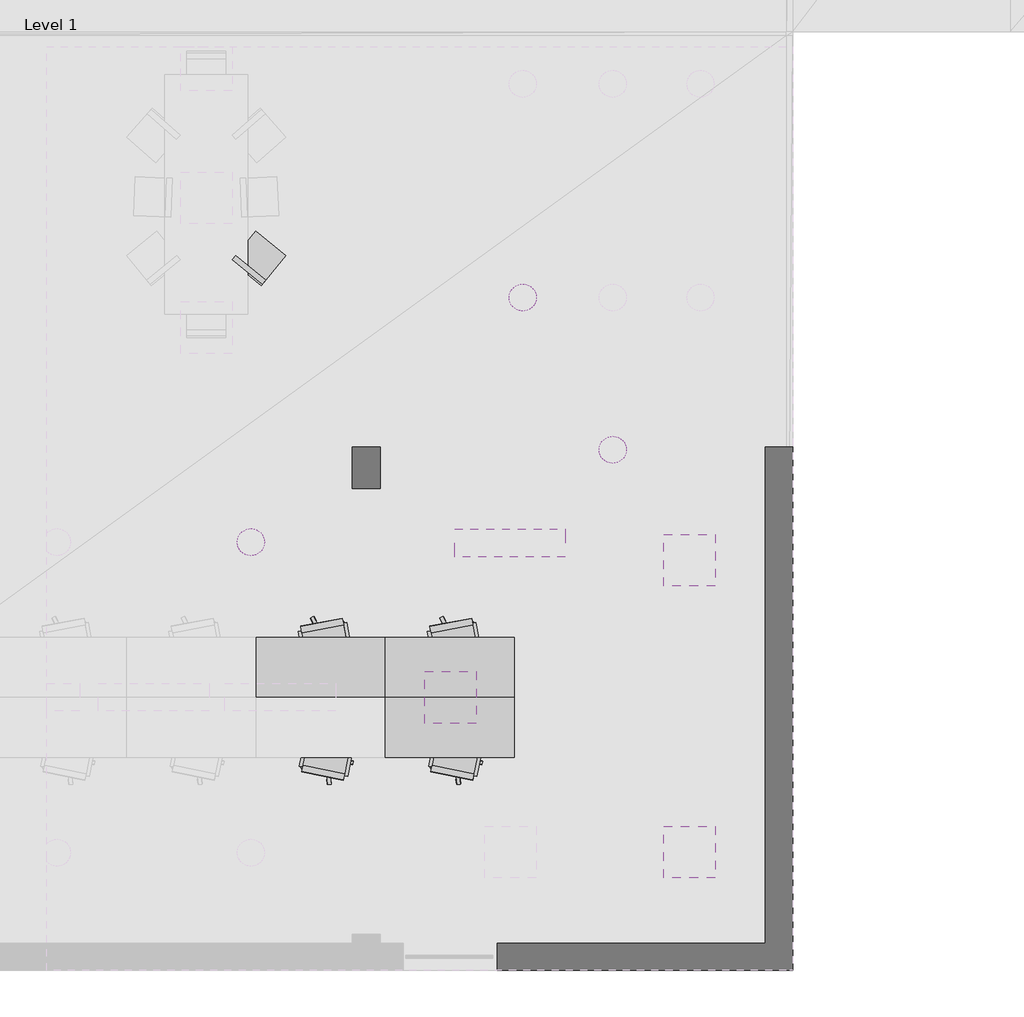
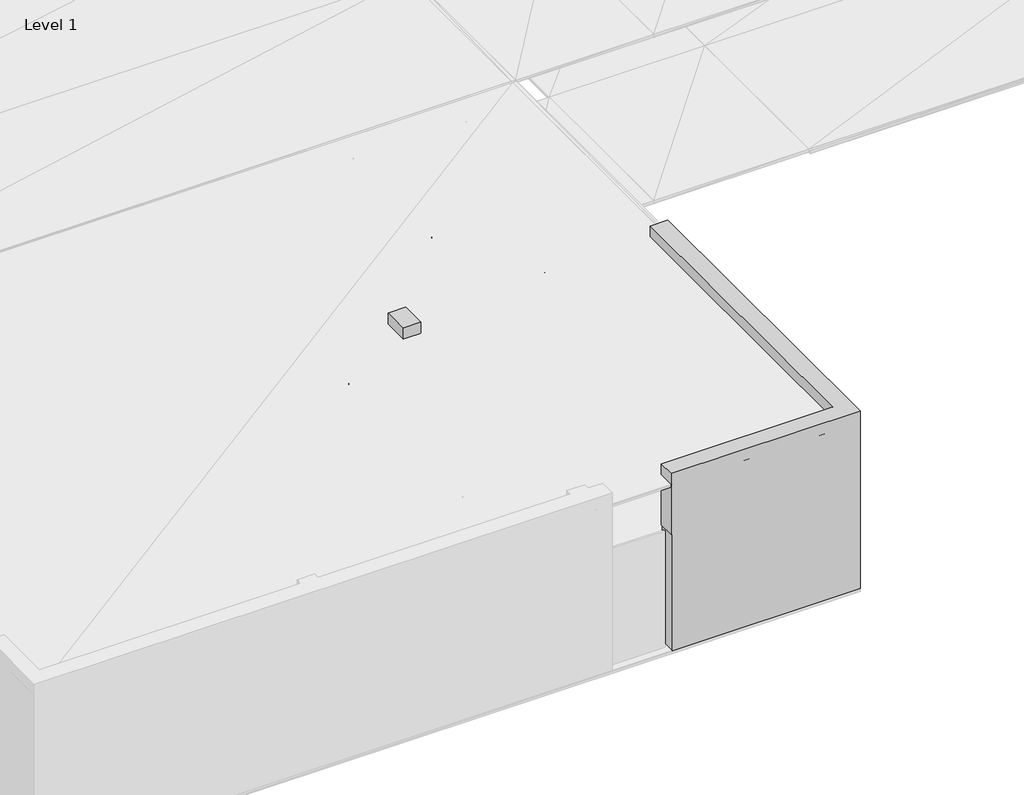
# One storey, part 4 of 14: 20 proxies.
"""IFC4 building model written with IfcOpenShell, lengths in millimetres."""

from ifc_helpers import new_model, si_unit, frame, origin, origin_with_axes, place, context, project, spatial, polyline, outline, extrude, faceted_brep, element, save

model = new_model("IFC4")

# Units and contexts
model_context = context("Model", 3, world=origin())
ifc_project = project(units=[si_unit("LENGTHUNIT", "METRE", prefix="MILLI")], contexts=[model_context])

# Site, building, storey
site = spatial("IfcSite", under=ifc_project)
building = spatial("IfcBuilding", under=site)
storey = spatial("IfcBuildingStorey", under=building, Name="Level 1", Elevation=0.0)

# Proxies
placement = place(None, origin())
element("IfcBuildingElementProxy", 1, Name="Generic Models", at=placement, inside=storey, context=model_context, shape_type="SweptSolid", body=[
    extrude(outline(polyline([(9656.826019, 2957.967758), (11056.825638, 2957.967758), (11056.825638, 2307.967901), (9656.826019, 2307.967901), (9656.826019, 2957.967758)])), frame((0.0, 0.0, 709.999979), z_axis=(0.0, 0.0, 1.0), x_axis=(1.0, 0.0, 0.0)), (0.0, 0.0, 1.0), 40.000021),
])
element("IfcBuildingElementProxy", 2, Name="Generic Models", at=placement, inside=storey, context=model_context, shape_type="SweptSolid", body=[
    extrude(outline(polyline([(8256.826401, 3607.967854), (9656.826019, 3607.967854), (9656.826019, 2957.967758), (8256.826401, 2957.967758), (8256.826401, 3607.967854)])), frame((0.0, 0.0, 709.999979), z_axis=(0.0, 0.0, 1.0), x_axis=(1.0, 0.0, 0.0)), (0.0, 0.0, 1.0), 40.000021),
])
element("IfcBuildingElementProxy", 3, Name="Generic Models", at=placement, inside=storey, context=model_context, shape_type="SweptSolid", body=[
    extrude(outline(polyline([(9656.826019, 3607.967854), (11056.825638, 3607.967854), (11056.825638, 2957.967758), (9656.826019, 2957.967758), (9656.826019, 3607.967854)])), frame((0.0, 0.0, 709.999979), z_axis=(0.0, 0.0, 1.0), x_axis=(1.0, 0.0, 0.0)), (0.0, 0.0, 1.0), 40.000021),
])
element("IfcBuildingElementProxy", 4, Name="Generic Models", at=placement, inside=storey, context=model_context, shape_type="SweptSolid", body=[
    extrude(outline(polyline([(9306.017876, 5670.000553), (9606.017113, 5670.000553), (9606.017113, 5220.000267), (9306.017876, 5220.000267), (9306.017876, 5670.000553)])), origin_with_axes(), (0.0, 0.0, 1.0), 3200.000048),
])
element("IfcBuildingElementProxy", 5, Name="Generic Models", at=placement, inside=storey, context=model_context, shape_type="Brep", body=[
    faceted_brep([(10876.01757, 0.00035, 2099.999905), (10876.01757, 290.000349, 2099.999905), (10876.01757, 290.000349, 0.0), (10876.01757, 0.00035, 0.0), (10856.017113, 290.000349, 2099.999905), (10856.017113, 0.00035, 2099.999905), (10856.017113, 290.000349, 3200.000048), (13776.017189, 290.000349, 3200.000048), (13776.017189, 290.000349, 0.0), (13776.017189, 5670.000553, 0.0), (13776.017189, 5670.000553, 3200.000048), (14076.01738, 5670.000553, 0.0), (14076.01738, 5670.000553, 3200.000048), (14076.01738, 0.00035, 0.0), (14076.01738, 0.00035, 3200.000048), (10856.017113, 0.00035, 3200.000048)], [[[0, 1, 2, 3]], [[4, 1, 0, 5]], [[4, 6, 7, 8, 2, 1]], [[9, 8, 7, 10]], [[11, 9, 10, 12]], [[13, 11, 12, 14]], [[3, 13, 14, 15, 5, 0]], [[5, 15, 6, 4]], [[7, 6, 15, 14, 12, 10]], [[8, 9, 11, 13, 3, 2]]]),
])
element("IfcBuildingElementProxy", 6, Name="Generic Models", at=placement, inside=storey, context=model_context, shape_type="SweptSolid", body=[
    extrude(outline(polyline([(10412.398338, 4480.108738), (10412.398338, 4780.108929), (11612.399101, 4780.108929), (11612.399101, 4480.108738), (10412.398338, 4480.108738)])), frame((0.0, 0.0, 2910.000086), z_axis=(0.0, 0.0, 1.0), x_axis=(1.0, 0.0, 0.0)), (0.0, 0.0, 1.0), 39.999962),
])
element("IfcBuildingElementProxy", 7, Name="Generic Models", at=placement, inside=storey, context=model_context, shape_type="SweptSolid", body=[
    extrude(outline(polyline([(10087.87632, 2677.057981), (10087.87632, 3237.057924), (10647.875786, 3237.057924), (10647.875786, 2677.057981), (10087.87632, 2677.057981)])), frame((0.0, 0.0, 2910.000086), z_axis=(0.0, 0.0, 1.0), x_axis=(1.0, 0.0, 0.0)), (0.0, 0.0, 1.0), 39.999962),
])
element("IfcBuildingElementProxy", 8, Name="Generic Models", at=placement, inside=storey, context=model_context, shape_type="SweptSolid", body=[
    extrude(outline(polyline([(12676.481247, 999.878049), (12676.481247, 1559.877992), (13236.480713, 1559.877992), (13236.480713, 999.878049), (12676.481247, 999.878049)])), frame((0.0, 0.0, 2910.000086), z_axis=(0.0, 0.0, 1.0), x_axis=(1.0, 0.0, 0.0)), (0.0, 0.0, 1.0), 39.999962),
])
element("IfcBuildingElementProxy", 9, Name="Generic Models", at=placement, inside=storey, context=model_context, shape_type="SweptSolid", body=[
    extrude(outline(polyline([(12676.481247, 4162.861824), (12676.481247, 4722.862244), (13236.480713, 4722.862244), (13236.480713, 4162.861824), (12676.481247, 4162.861824)])), frame((0.0, 0.0, 2910.000086), z_axis=(0.0, 0.0, 1.0), x_axis=(1.0, 0.0, 0.0)), (0.0, 0.0, 1.0), 39.999962),
])
element("IfcBuildingElementProxy", 10, Name="Generic Models", at=placement, inside=storey, context=model_context, shape_type="SweptSolid", body=[
    extrude(outline(polyline([(11287.160873, 7234.164715), (11273.543358, 7208.688259), (11255.217552, 7186.357498), (11232.887268, 7168.031693), (11207.410812, 7154.414177), (11179.766655, 7146.028519), (11151.018143, 7143.19706), (11122.26963, 7146.028519), (11094.625473, 7154.414177), (11069.149017, 7168.031693), (11046.818733, 7186.357498), (11028.492928, 7208.688259), (11014.875412, 7234.164715), (11006.489754, 7261.808395), (11003.658295, 7290.556908), (11006.489754, 7319.30542), (11014.875412, 7346.9491), (11028.492928, 7372.425556), (11046.818733, 7394.756317), (11069.149017, 7413.082123), (11094.625473, 7426.699638), (11122.26963, 7435.085297), (11151.018143, 7437.916756), (11179.766655, 7435.085297), (11207.410812, 7426.699638), (11232.887268, 7413.082123), (11255.217552, 7394.756317), (11273.543358, 7372.425556), (11287.160873, 7346.9491), (11295.546532, 7319.30542), (11298.377991, 7290.556908), (11295.546532, 7261.808395), (11287.160873, 7234.164715)])), frame((0.0, 0.0, 2910.000086), z_axis=(0.0, 0.0, 1.0), x_axis=(1.0, 0.0, 0.0)), (0.0, 0.0, 1.0), 39.999962),
])
element("IfcBuildingElementProxy", 11, Name="Generic Models", at=placement, inside=storey, context=model_context, shape_type="SweptSolid", body=[
    extrude(outline(polyline([(12262.160301, 5584.164619), (12248.542786, 5558.688164), (12230.21698, 5536.357403), (12207.886696, 5518.031597), (12182.41024, 5504.414082), (12154.766083, 5496.028423), (12126.01757, 5493.196964), (12097.269058, 5496.028423), (12069.624901, 5504.414082), (12044.148445, 5518.031597), (12021.818161, 5536.357403), (12003.492355, 5558.688164), (11989.87484, 5584.164619), (11981.489182, 5611.8083), (11978.657722, 5640.556812), (11981.489182, 5669.305325), (11989.87484, 5696.949005), (12003.492355, 5722.425461), (12021.818161, 5744.756222), (12044.148445, 5763.082027), (12069.624901, 5776.699543), (12097.269058, 5785.085201), (12126.01757, 5787.91666), (12154.766083, 5785.085201), (12182.41024, 5776.699543), (12207.886696, 5763.082027), (12230.21698, 5744.756222), (12248.542786, 5722.425461), (12262.160301, 5696.949005), (12270.545959, 5669.305325), (12273.377419, 5640.556812), (12270.545959, 5611.8083), (12262.160301, 5584.164619)])), frame((0.0, 0.0, 2910.000086), z_axis=(0.0, 0.0, 1.0), x_axis=(1.0, 0.0, 0.0)), (0.0, 0.0, 1.0), 39.999962),
])
element("IfcBuildingElementProxy", 12, Name="Generic Models", at=placement, inside=storey, context=model_context, shape_type="SweptSolid", body=[
    extrude(outline(polyline([(8342.161179, 4582.59201), (8328.543663, 4557.115555), (8310.217857, 4534.784794), (8287.887573, 4516.458988), (8262.411118, 4502.841473), (8234.76696, 4494.455814), (8206.018448, 4491.624355), (8177.269936, 4494.455814), (8149.625778, 4502.841473), (8124.149323, 4516.458988), (8101.819038, 4534.784794), (8083.493233, 4557.115555), (8069.875717, 4582.59201), (8061.490059, 4610.235691), (8058.6586, 4638.984203), (8061.490059, 4667.732716), (8069.875717, 4695.376396), (8083.493233, 4720.852852), (8101.819038, 4743.183613), (8124.149323, 4761.509418), (8149.625778, 4775.126934), (8177.269936, 4783.512592), (8206.018448, 4786.344051), (8234.76696, 4783.512592), (8262.411118, 4775.126934), (8287.887573, 4761.509418), (8310.217857, 4743.183613), (8328.543663, 4720.852852), (8342.161179, 4695.376396), (8350.546837, 4667.732716), (8353.378296, 4638.984203), (8350.546837, 4610.235691), (8342.161179, 4582.59201)])), frame((0.0, 0.0, 2910.000086), z_axis=(0.0, 0.0, 1.0), x_axis=(1.0, 0.0, 0.0)), (0.0, 0.0, 1.0), 39.999962),
])
element("IfcBuildingElementProxy", 13, Name="Generic Models", at=placement, inside=storey, context=model_context, shape_type="SweptSolid", body=[
    extrude(outline(polyline([(8501.187325, 7729.259968), (8518.912315, 7750.934601), (8540.587425, 7733.208656), (8522.861481, 7711.534023), (8501.187325, 7729.259968)])), frame((0.0, 0.0, 50.000001), z_axis=(0.0, 0.0, 1.0), x_axis=(1.0, 0.0, 0.0)), (0.0, 0.0, 1.0), 389.999997),
    extrude(outline(polyline([(8298.605919, 7481.548786), (8316.331863, 7503.223419), (8338.00602, 7485.497475), (8320.280075, 7463.822842), (8298.605919, 7481.548786)])), frame((0.0, 0.0, 50.000001), z_axis=(0.0, 0.0, 1.0), x_axis=(1.0, 0.0, 0.0)), (0.0, 0.0, 1.0), 389.999997),
    extrude(outline(polyline([(8237.994194, 7944.502354), (8255.720139, 7966.176987), (8277.394295, 7948.451519), (8259.66835, 7926.776409), (8237.994194, 7944.502354)])), frame((0.0, 0.0, 50.000001), z_axis=(0.0, 0.0, 1.0), x_axis=(1.0, 0.0, 0.0)), (0.0, 0.0, 1.0), 389.999997),
    extrude(outline(polyline([(8035.412788, 7696.791172), (8053.138733, 7718.466282), (8074.812889, 7700.740337), (8057.086945, 7679.065704), (8035.412788, 7696.791172)])), frame((0.0, 0.0, 50.000001), z_axis=(0.0, 0.0, 1.0), x_axis=(1.0, 0.0, 0.0)), (0.0, 0.0, 1.0), 389.999997),
    extrude(outline(polyline([(8005.156517, 7700.865746), (8043.141365, 7747.311592), (8368.261337, 7481.423378), (8330.277443, 7434.977531), (8005.156517, 7700.865746)])), frame((0.0, 0.0, 460.000008), z_axis=(0.0, 0.0, 1.0), x_axis=(1.0, 0.0, 0.0)), (0.0, 0.0, 1.0), 400.000006),
    extrude(outline(polyline([(7992.495537, 7685.383797), (8258.383751, 8010.504723), (8583.504677, 7744.616508), (8317.616463, 7419.495583), (7992.495537, 7685.383797)])), frame((0.0, 0.0, 417.499989), z_axis=(0.0, 0.0, 1.0), x_axis=(1.0, 0.0, 0.0)), (0.0, 0.0, 1.0), 55.000007),
])
element("IfcBuildingElementProxy", 14, Name="Generic Models", at=placement, inside=storey, context=model_context, shape_type="SweptSolid", body=[
    extrude(outline(polyline([(11004.325867, 2382.967949), (10959.32579, 2382.967949), (10959.32579, 2882.96771), (11004.325867, 2882.96771), (11004.325867, 2382.967949)])), frame((0.0, 0.0, 639.999986), z_axis=(0.0, 0.0, 1.0), x_axis=(1.0, 0.0, 0.0)), (0.0, 0.0, 1.0), 69.999993),
    extrude(outline(polyline([(9754.325867, 2382.967949), (9709.32579, 2382.967949), (9709.32579, 2882.96771), (9754.325867, 2882.96771), (9754.325867, 2382.967949)])), frame((0.0, 0.0, 639.999986), z_axis=(0.0, 0.0, 1.0), x_axis=(1.0, 0.0, 0.0)), (0.0, 0.0, 1.0), 69.999993),
    extrude(outline(polyline([(9731.825829, 2860.467672), (9731.825829, 2905.467749), (10981.825829, 2905.467749), (10981.825829, 2860.467672), (9731.825829, 2860.467672)])), frame((0.0, 0.0, 639.999986), z_axis=(0.0, 0.0, 1.0), x_axis=(1.0, 0.0, 0.0)), (0.0, 0.0, 1.0), 69.999993),
    extrude(outline(polyline([(9731.825829, 2360.467911), (9731.825829, 2405.467987), (10981.825829, 2405.467987), (10981.825829, 2360.467911), (9731.825829, 2360.467911)])), frame((0.0, 0.0, 639.999986), z_axis=(0.0, 0.0, 1.0), x_axis=(1.0, 0.0, 0.0)), (0.0, 0.0, 1.0), 69.999993),
    extrude(outline(polyline([(10957.450867, 2858.592749), (10957.450867, 2907.342672), (11006.20079, 2907.342672), (11006.20079, 2858.592749), (10957.450867, 2858.592749)])), frame((0.0, 0.0, 50.000001), z_axis=(0.0, 0.0, 1.0), x_axis=(1.0, 0.0, 0.0)), (0.0, 0.0, 1.0), 659.999978),
    extrude(outline(polyline([(10957.450867, 2358.592987), (10957.450867, 2407.342911), (11006.20079, 2407.342911), (11006.20079, 2358.592987), (10957.450867, 2358.592987)])), frame((0.0, 0.0, 50.000001), z_axis=(0.0, 0.0, 1.0), x_axis=(1.0, 0.0, 0.0)), (0.0, 0.0, 1.0), 659.999978),
    extrude(outline(polyline([(9707.450867, 2858.592749), (9707.450867, 2907.342672), (9756.20079, 2907.342672), (9756.20079, 2858.592749), (9707.450867, 2858.592749)])), frame((0.0, 0.0, 50.000001), z_axis=(0.0, 0.0, 1.0), x_axis=(1.0, 0.0, 0.0)), (0.0, 0.0, 1.0), 659.999978),
    extrude(outline(polyline([(9707.450867, 2358.592987), (9707.450867, 2407.342911), (9756.20079, 2407.342911), (9756.20079, 2358.592987), (9707.450867, 2358.592987)])), frame((0.0, 0.0, 50.000001), z_axis=(0.0, 0.0, 1.0), x_axis=(1.0, 0.0, 0.0)), (0.0, 0.0, 1.0), 659.999978),
])
element("IfcBuildingElementProxy", 15, Name="Generic Models", at=placement, inside=storey, context=model_context, shape_type="SweptSolid", body=[
    extrude(outline(polyline([(9604.326248, 3032.967806), (9559.326172, 3032.967806), (9559.326172, 3532.967806), (9604.326248, 3532.967806), (9604.326248, 3032.967806)])), frame((0.0, 0.0, 639.999986), z_axis=(0.0, 0.0, 1.0), x_axis=(1.0, 0.0, 0.0)), (0.0, 0.0, 1.0), 69.999993),
    extrude(outline(polyline([(8354.326248, 3032.967806), (8309.326172, 3032.967806), (8309.326172, 3532.967806), (8354.326248, 3532.967806), (8354.326248, 3032.967806)])), frame((0.0, 0.0, 639.999986), z_axis=(0.0, 0.0, 1.0), x_axis=(1.0, 0.0, 0.0)), (0.0, 0.0, 1.0), 69.999993),
    extrude(outline(polyline([(8331.82621, 3510.467768), (8331.82621, 3555.467844), (9581.82621, 3555.467844), (9581.82621, 3510.467768), (8331.82621, 3510.467768)])), frame((0.0, 0.0, 639.999986), z_axis=(0.0, 0.0, 1.0), x_axis=(1.0, 0.0, 0.0)), (0.0, 0.0, 1.0), 69.999993),
    extrude(outline(polyline([(8331.82621, 3010.467768), (8331.82621, 3055.467844), (9581.82621, 3055.467844), (9581.82621, 3010.467768), (8331.82621, 3010.467768)])), frame((0.0, 0.0, 639.999986), z_axis=(0.0, 0.0, 1.0), x_axis=(1.0, 0.0, 0.0)), (0.0, 0.0, 1.0), 69.999993),
    extrude(outline(polyline([(9557.451248, 3508.592844), (9557.451248, 3557.342768), (9606.201172, 3557.342768), (9606.201172, 3508.592844), (9557.451248, 3508.592844)])), frame((0.0, 0.0, 50.000001), z_axis=(0.0, 0.0, 1.0), x_axis=(1.0, 0.0, 0.0)), (0.0, 0.0, 1.0), 659.999978),
    extrude(outline(polyline([(9557.451248, 3008.592844), (9557.451248, 3057.342768), (9606.201172, 3057.342768), (9606.201172, 3008.592844), (9557.451248, 3008.592844)])), frame((0.0, 0.0, 50.000001), z_axis=(0.0, 0.0, 1.0), x_axis=(1.0, 0.0, 0.0)), (0.0, 0.0, 1.0), 659.999978),
    extrude(outline(polyline([(8307.451248, 3508.592844), (8307.451248, 3557.342768), (8356.201172, 3557.342768), (8356.201172, 3508.592844), (8307.451248, 3508.592844)])), frame((0.0, 0.0, 50.000001), z_axis=(0.0, 0.0, 1.0), x_axis=(1.0, 0.0, 0.0)), (0.0, 0.0, 1.0), 659.999978),
    extrude(outline(polyline([(8307.451248, 3008.592844), (8307.451248, 3057.342768), (8356.201172, 3057.342768), (8356.201172, 3008.592844), (8307.451248, 3008.592844)])), frame((0.0, 0.0, 50.000001), z_axis=(0.0, 0.0, 1.0), x_axis=(1.0, 0.0, 0.0)), (0.0, 0.0, 1.0), 659.999978),
])
element("IfcBuildingElementProxy", 16, Name="Generic Models", at=placement, inside=storey, context=model_context, shape_type="SweptSolid", body=[
    extrude(outline(polyline([(11004.325867, 3032.967806), (10959.32579, 3032.967806), (10959.32579, 3532.967806), (11004.325867, 3532.967806), (11004.325867, 3032.967806)])), frame((0.0, 0.0, 639.999986), z_axis=(0.0, 0.0, 1.0), x_axis=(1.0, 0.0, 0.0)), (0.0, 0.0, 1.0), 69.999993),
    extrude(outline(polyline([(9754.325867, 3032.967806), (9709.32579, 3032.967806), (9709.32579, 3532.967806), (9754.325867, 3532.967806), (9754.325867, 3032.967806)])), frame((0.0, 0.0, 639.999986), z_axis=(0.0, 0.0, 1.0), x_axis=(1.0, 0.0, 0.0)), (0.0, 0.0, 1.0), 69.999993),
    extrude(outline(polyline([(9731.825829, 3510.467768), (9731.825829, 3555.467844), (10981.825829, 3555.467844), (10981.825829, 3510.467768), (9731.825829, 3510.467768)])), frame((0.0, 0.0, 639.999986), z_axis=(0.0, 0.0, 1.0), x_axis=(1.0, 0.0, 0.0)), (0.0, 0.0, 1.0), 69.999993),
    extrude(outline(polyline([(9731.825829, 3010.467768), (9731.825829, 3055.467844), (10981.825829, 3055.467844), (10981.825829, 3010.467768), (9731.825829, 3010.467768)])), frame((0.0, 0.0, 639.999986), z_axis=(0.0, 0.0, 1.0), x_axis=(1.0, 0.0, 0.0)), (0.0, 0.0, 1.0), 69.999993),
    extrude(outline(polyline([(10957.450867, 3508.592844), (10957.450867, 3557.342768), (11006.20079, 3557.342768), (11006.20079, 3508.592844), (10957.450867, 3508.592844)])), frame((0.0, 0.0, 50.000001), z_axis=(0.0, 0.0, 1.0), x_axis=(1.0, 0.0, 0.0)), (0.0, 0.0, 1.0), 659.999978),
    extrude(outline(polyline([(10957.450867, 3008.592844), (10957.450867, 3057.342768), (11006.20079, 3057.342768), (11006.20079, 3008.592844), (10957.450867, 3008.592844)])), frame((0.0, 0.0, 50.000001), z_axis=(0.0, 0.0, 1.0), x_axis=(1.0, 0.0, 0.0)), (0.0, 0.0, 1.0), 659.999978),
    extrude(outline(polyline([(9707.450867, 3508.592844), (9707.450867, 3557.342768), (9756.20079, 3557.342768), (9756.20079, 3508.592844), (9707.450867, 3508.592844)])), frame((0.0, 0.0, 50.000001), z_axis=(0.0, 0.0, 1.0), x_axis=(1.0, 0.0, 0.0)), (0.0, 0.0, 1.0), 659.999978),
    extrude(outline(polyline([(9707.450867, 3008.592844), (9707.450867, 3057.342768), (9756.20079, 3057.342768), (9756.20079, 3008.592844), (9707.450867, 3008.592844)])), frame((0.0, 0.0, 50.000001), z_axis=(0.0, 0.0, 1.0), x_axis=(1.0, 0.0, 0.0)), (0.0, 0.0, 1.0), 659.999978),
])
element("IfcBuildingElementProxy", 17, Name="Generic Models", at=placement, inside=storey, context=model_context, shape_type="SweptSolid", body=[
    extrude(outline(polyline([(8778.252602, 3524.032593), (8783.71048, 3494.5333), (8754.210472, 3489.075899), (8748.753548, 3518.575191), (8778.252602, 3524.032593)])), frame((0.0, 0.0, 439.999998), z_axis=(0.0, 0.0, 1.0), x_axis=(1.0, 0.0, 0.0)), (0.0, 0.0, 1.0), 199.999988),
    extrude(outline(polyline([(8752.514839, 3676.901102), (8814.364433, 3342.57412), (8779.949188, 3336.207151), (8718.09864, 3670.534134), (8752.514839, 3676.901102)])), frame((0.0, 0.0, 612.500012), z_axis=(0.0, 0.0, 1.0), x_axis=(1.0, 0.0, 0.0)), (0.0, 0.0, 1.0), 34.999967),
    extrude(outline(polyline([(8813.246727, 3705.933571), (8817.7948, 3681.350708), (8793.211937, 3676.802874), (8788.663864, 3701.385736), (8813.246727, 3705.933571)])), frame((0.0, 0.0, 460.000008), z_axis=(0.0, 0.0, 1.0), x_axis=(1.0, 0.0, 0.0)), (0.0, 0.0, 1.0), 400.000006),
    extrude(outline(polyline([(9269.909859, 3614.989042), (9275.367737, 3585.489511), (9245.867729, 3580.03211), (9240.410805, 3609.531641), (9269.909859, 3614.989042)])), frame((0.0, 0.0, 439.999998), z_axis=(0.0, 0.0, 1.0), x_axis=(1.0, 0.0, 0.0)), (0.0, 0.0, 1.0), 199.999988),
    extrude(outline(polyline([(9244.172096, 3767.857552), (9306.022644, 3433.530569), (9271.606445, 3427.163601), (9209.755898, 3761.490583), (9244.172096, 3767.857552)])), frame((0.0, 0.0, 612.500012), z_axis=(0.0, 0.0, 1.0), x_axis=(1.0, 0.0, 0.0)), (0.0, 0.0, 1.0), 34.999967),
    extrude(outline(polyline([(9167.240143, 3771.422148), (9171.787262, 3746.839285), (9147.204399, 3742.291451), (9142.65728, 3766.874313), (9167.240143, 3771.422148)])), frame((0.0, 0.0, 460.000008), z_axis=(0.0, 0.0, 1.0), x_axis=(1.0, 0.0, 0.0)), (0.0, 0.0, 1.0), 400.000006),
    extrude(outline(polyline([(9198.202133, 3810.201645), (9210.935593, 3741.369486), (8758.610725, 3657.689571), (8745.877266, 3726.52173), (9198.202133, 3810.201645)])), frame((0.0, 0.0, 460.000008), z_axis=(0.0, 0.0, 1.0), x_axis=(1.0, 0.0, 0.0)), (0.0, 0.0, 1.0), 479.99999),
    extrude(outline(polyline([(9197.292328, 3815.118074), (9273.695946, 3402.125835), (8821.371078, 3318.446159), (8744.967461, 3731.438398), (9197.292328, 3815.118074)])), frame((0.0, 0.0, 400.000006), z_axis=(0.0, 0.0, 1.0), x_axis=(1.0, 0.0, 0.0)), (0.0, 0.0, 1.0), 69.999993),
    extrude(outline(polyline([(9026.831627, 3536.471128), (9009.331703, 3531.78215), (8991.831779, 3536.471128), (8979.021072, 3549.282074), (8974.331856, 3566.781998), (8979.021072, 3584.28216), (8991.831779, 3597.093105), (9009.331703, 3601.782084), (9026.831627, 3597.093105), (9039.642334, 3584.28216), (9044.331551, 3566.781998), (9039.642334, 3549.282074), (9026.831627, 3536.471128)])), frame((0.0, 0.0, 115.000002), z_axis=(0.0, 0.0, 1.0), x_axis=(1.0, 0.0, 0.0)), (0.0, 0.0, 1.0), 280.000009),
    extrude(outline(polyline([(8915.851593, 3786.267996), (8876.297951, 3764.808893), (8850.07, 3813.152313), (8889.623642, 3834.611416), (8915.851593, 3786.267996)])), frame((0.0, 0.0, 35.0), z_axis=(0.0, 0.0, 1.0), x_axis=(1.0, 0.0, 0.0)), (0.0, 0.0, 1.0), 59.999999),
    extrude(outline(polyline([(9027.097702, 3570.732594), (8996.334076, 3554.042101), (8853.273392, 3817.734241), (8884.037018, 3834.424496), (9027.097702, 3570.732594)])), frame((0.0, 0.0, 82.500003), z_axis=(0.0, 0.0, 1.0), x_axis=(1.0, 0.0, 0.0)), (0.0, 0.0, 1.0), 34.999997),
    extrude(outline(polyline([(9189.188004, 3723.511457), (9156.557083, 3754.498243), (9194.429398, 3794.38138), (9227.061272, 3763.394594), (9189.188004, 3723.511457)])), frame((0.0, 0.0, 35.0), z_axis=(0.0, 0.0, 1.0), x_axis=(1.0, 0.0, 0.0)), (0.0, 0.0, 1.0), 59.999999),
    extrude(outline(polyline([(9018.578529, 3551.105976), (8993.198395, 3575.206757), (9199.776649, 3792.751312), (9225.156784, 3768.650532), (9018.578529, 3551.105976)])), frame((0.0, 0.0, 82.500003), z_axis=(0.0, 0.0, 1.0), x_axis=(1.0, 0.0, 0.0)), (0.0, 0.0, 1.0), 34.999997),
    extrude(outline(polyline([(9213.969231, 3444.160461), (9233.355522, 3484.770298), (9282.989502, 3461.076021), (9263.60321, 3420.465946), (9213.969231, 3444.160461)])), frame((0.0, 0.0, 35.0), z_axis=(0.0, 0.0, 1.0), x_axis=(1.0, 0.0, 0.0)), (0.0, 0.0, 1.0), 59.999999),
    extrude(outline(polyline([(8997.280121, 3553.143501), (9012.358665, 3584.728956), (9283.091545, 3455.486774), (9268.013954, 3423.901081), (8997.280121, 3553.143501)])), frame((0.0, 0.0, 82.500003), z_axis=(0.0, 0.0, 1.0), x_axis=(1.0, 0.0, 0.0)), (0.0, 0.0, 1.0), 34.999997),
    extrude(outline(polyline([(8955.947876, 3334.268332), (9000.56076, 3328.380108), (8993.364334, 3273.852825), (8948.75145, 3279.741287), (8955.947876, 3334.268332)])), frame((0.0, 0.0, 35.0), z_axis=(0.0, 0.0, 1.0), x_axis=(1.0, 0.0, 0.0)), (0.0, 0.0, 1.0), 59.999999),
    extrude(outline(polyline([(8992.636681, 3574.028969), (9027.335167, 3569.449186), (8988.080025, 3272.028685), (8953.380585, 3276.608467), (8992.636681, 3574.028969)])), frame((0.0, 0.0, 82.500003), z_axis=(0.0, 0.0, 1.0), x_axis=(1.0, 0.0, 0.0)), (0.0, 0.0, 1.0), 34.999997),
    extrude(outline(polyline([(8771.701813, 3545.702457), (8779.887199, 3501.453161), (8725.805283, 3491.448164), (8717.618942, 3535.697222), (8771.701813, 3545.702457)])), frame((0.0, 0.0, 35.0), z_axis=(0.0, 0.0, 1.0), x_axis=(1.0, 0.0, 0.0)), (0.0, 0.0, 1.0), 59.999999),
    extrude(outline(polyline([(9011.064529, 3584.899664), (9017.432213, 3550.483704), (8722.436905, 3495.909929), (8716.070175, 3530.32589), (9011.064529, 3584.899664)])), frame((0.0, 0.0, 82.500003), z_axis=(0.0, 0.0, 1.0), x_axis=(1.0, 0.0, 0.0)), (0.0, 0.0, 1.0), 34.999997),
])
element("IfcBuildingElementProxy", 18, Name="Generic Models", at=placement, inside=storey, context=model_context, shape_type="SweptSolid", body=[
    extrude(outline(polyline([(9253.407478, 2260.814905), (9259.402275, 2290.20977), (9288.797379, 2284.214973), (9282.802582, 2254.820108), (9253.407478, 2260.814905)])), frame((0.0, 0.0, 439.999998), z_axis=(0.0, 0.0, 1.0), x_axis=(1.0, 0.0, 0.0)), (0.0, 0.0, 1.0), 199.999988),
    extrude(outline(polyline([(9219.984055, 2109.440804), (9287.926674, 2442.583084), (9322.220802, 2435.589075), (9254.278183, 2102.446795), (9219.984055, 2109.440804)])), frame((0.0, 0.0, 612.500012), z_axis=(0.0, 0.0, 1.0), x_axis=(1.0, 0.0, 0.0)), (0.0, 0.0, 1.0), 34.999967),
    extrude(outline(polyline([(9152.798653, 2105.282784), (9157.793999, 2129.778624), (9182.290077, 2124.782801), (9177.293777, 2100.287199), (9152.798653, 2105.282784)])), frame((0.0, 0.0, 460.000008), z_axis=(0.0, 0.0, 1.0), x_axis=(1.0, 0.0, 0.0)), (0.0, 0.0, 1.0), 400.000006),
    extrude(outline(polyline([(8763.492584, 2360.730648), (8769.487381, 2390.125513), (8798.882484, 2384.130716), (8792.887688, 2354.735851), (8763.492584, 2360.730648)])), frame((0.0, 0.0, 439.999998), z_axis=(0.0, 0.0, 1.0), x_axis=(1.0, 0.0, 0.0)), (0.0, 0.0, 1.0), 199.999988),
    extrude(outline(polyline([(8730.06916, 2209.356546), (8798.01178, 2542.498827), (8832.305908, 2535.504818), (8764.363289, 2202.362537), (8730.06916, 2209.356546)])), frame((0.0, 0.0, 612.500012), z_axis=(0.0, 0.0, 1.0), x_axis=(1.0, 0.0, 0.0)), (0.0, 0.0, 1.0), 34.999967),
    extrude(outline(polyline([(8800.059319, 2177.222252), (8805.054665, 2201.717854), (8829.550743, 2196.722269), (8824.555397, 2172.226429), (8800.059319, 2177.222252)])), frame((0.0, 0.0, 460.000008), z_axis=(0.0, 0.0, 1.0), x_axis=(1.0, 0.0, 0.0)), (0.0, 0.0, 1.0), 400.000006),
    extrude(outline(polyline([(8756.821632, 2152.87137), (8770.809174, 2221.459627), (9221.530914, 2129.537106), (9207.543373, 2060.948849), (8756.821632, 2152.87137)])), frame((0.0, 0.0, 460.000008), z_axis=(0.0, 0.0, 1.0), x_axis=(1.0, 0.0, 0.0)), (0.0, 0.0, 1.0), 479.99999),
    extrude(outline(polyline([(8755.822182, 2147.972345), (8839.751244, 2559.500933), (9290.472984, 2467.578411), (9206.543922, 2056.049824), (8755.822182, 2147.972345)])), frame((0.0, 0.0, 400.000006), z_axis=(0.0, 0.0, 1.0), x_axis=(1.0, 0.0, 0.0)), (0.0, 0.0, 1.0), 69.999993),
    extrude(outline(polyline([(9040.647507, 2277.46439), (9023.147583, 2272.775412), (9005.647659, 2277.46439), (8992.836952, 2290.275335), (8988.147736, 2307.775497), (8992.836952, 2325.275421), (9005.647659, 2338.086367), (9023.147583, 2342.775345), (9040.647507, 2338.086367), (9053.458214, 2325.275421), (9058.14743, 2307.775497), (9053.458214, 2290.275335), (9040.647507, 2277.46439)])), frame((0.0, 0.0, 115.000002), z_axis=(0.0, 0.0, 1.0), x_axis=(1.0, 0.0, 0.0)), (0.0, 0.0, 1.0), 280.000009),
    extrude(outline(polyline([(9027.565002, 2069.252968), (9072.278023, 2074.3258), (9078.478813, 2019.676447), (9033.765793, 2014.603376), (9027.565002, 2069.252968)])), frame((0.0, 0.0, 35.0), z_axis=(0.0, 0.0, 1.0), x_axis=(1.0, 0.0, 0.0)), (0.0, 0.0, 1.0), 59.999999),
    extrude(outline(polyline([(9005.195618, 2310.77075), (9039.972305, 2314.716339), (9073.792458, 2016.628742), (9039.01577, 2012.683153), (9005.195618, 2310.77075)])), frame((0.0, 0.0, 82.500003), z_axis=(0.0, 0.0, 1.0), x_axis=(1.0, 0.0, 0.0)), (0.0, 0.0, 1.0), 34.999997),
    extrude(outline(polyline([(8797.664642, 2229.866505), (8816.306114, 2188.909531), (8766.247749, 2166.125059), (8747.605324, 2207.082033), (8797.664642, 2229.866505)])), frame((0.0, 0.0, 35.0), z_axis=(0.0, 0.0, 1.0), x_axis=(1.0, 0.0, 0.0)), (0.0, 0.0, 1.0), 59.999999),
    extrude(outline(polyline([(9020.448685, 2325.774431), (9034.948349, 2293.918848), (8761.900902, 2169.640064), (8747.401237, 2201.495647), (9020.448685, 2325.774431)])), frame((0.0, 0.0, 82.500003), z_axis=(0.0, 0.0, 1.0), x_axis=(1.0, 0.0, 0.0)), (0.0, 0.0, 1.0), 34.999997),
    extrude(outline(polyline([(8879.37355, 2498.147488), (8846.18187, 2467.761755), (8809.043884, 2508.32963), (8842.235565, 2538.715363), (8879.37355, 2498.147488)])), frame((0.0, 0.0, 35.0), z_axis=(0.0, 0.0, 1.0), x_axis=(1.0, 0.0, 0.0)), (0.0, 0.0, 1.0), 59.999999),
    extrude(outline(polyline([(9039.431572, 2315.90414), (9013.615608, 2292.27066), (8811.043739, 2513.549805), (8836.859703, 2537.183285), (9039.431572, 2315.90414)])), frame((0.0, 0.0, 82.500003), z_axis=(0.0, 0.0, 1.0), x_axis=(1.0, 0.0, 0.0)), (0.0, 0.0, 1.0), 34.999997),
    extrude(outline(polyline([(9159.773827, 2503.340721), (9120.617867, 2525.518417), (9147.724152, 2573.374987), (9186.880112, 2551.197529), (9159.773827, 2503.340721)])), frame((0.0, 0.0, 35.0), z_axis=(0.0, 0.0, 1.0), x_axis=(1.0, 0.0, 0.0)), (0.0, 0.0, 1.0), 59.999999),
    extrude(outline(polyline([(9035.910606, 2294.800043), (9005.455971, 2312.049389), (9153.306961, 2573.086262), (9183.761597, 2555.836916), (9035.910606, 2294.800043)])), frame((0.0, 0.0, 82.500003), z_axis=(0.0, 0.0, 1.0), x_axis=(1.0, 0.0, 0.0)), (0.0, 0.0, 1.0), 34.999997),
    extrude(outline(polyline([(9251.360893, 2238.269329), (9260.353088, 2282.361507), (9314.24427, 2271.370888), (9305.252075, 2227.278471), (9251.360893, 2238.269329)])), frame((0.0, 0.0, 35.0), z_axis=(0.0, 0.0, 1.0), x_axis=(1.0, 0.0, 0.0)), (0.0, 0.0, 1.0), 59.999999),
    extrude(outline(polyline([(9014.751434, 2291.627407), (9021.745682, 2325.921535), (9315.694809, 2265.972137), (9308.700562, 2231.678009), (9014.751434, 2291.627407)])), frame((0.0, 0.0, 82.500003), z_axis=(0.0, 0.0, 1.0), x_axis=(1.0, 0.0, 0.0)), (0.0, 0.0, 1.0), 34.999997),
])
element("IfcBuildingElementProxy", 19, Name="Generic Models", at=placement, inside=storey, context=model_context, shape_type="SweptSolid", body=[
    extrude(outline(polyline([(10178.25222, 3524.032593), (10183.710098, 3494.5333), (10154.210091, 3489.075899), (10148.753166, 3518.575191), (10178.25222, 3524.032593)])), frame((0.0, 0.0, 439.999998), z_axis=(0.0, 0.0, 1.0), x_axis=(1.0, 0.0, 0.0)), (0.0, 0.0, 1.0), 199.999988),
    extrude(outline(polyline([(10152.514458, 3676.901102), (10214.364052, 3342.57412), (10179.948807, 3336.207151), (10118.098259, 3670.534134), (10152.514458, 3676.901102)])), frame((0.0, 0.0, 612.500012), z_axis=(0.0, 0.0, 1.0), x_axis=(1.0, 0.0, 0.0)), (0.0, 0.0, 1.0), 34.999967),
    extrude(outline(polyline([(10213.246346, 3705.933571), (10217.794418, 3681.350708), (10193.211555, 3676.802874), (10188.663483, 3701.385736), (10213.246346, 3705.933571)])), frame((0.0, 0.0, 460.000008), z_axis=(0.0, 0.0, 1.0), x_axis=(1.0, 0.0, 0.0)), (0.0, 0.0, 1.0), 400.000006),
    extrude(outline(polyline([(10669.909477, 3614.989042), (10675.367355, 3585.489511), (10645.867348, 3580.03211), (10640.410423, 3609.531641), (10669.909477, 3614.989042)])), frame((0.0, 0.0, 439.999998), z_axis=(0.0, 0.0, 1.0), x_axis=(1.0, 0.0, 0.0)), (0.0, 0.0, 1.0), 199.999988),
    extrude(outline(polyline([(10644.171715, 3767.857552), (10706.022263, 3433.530569), (10671.606064, 3427.163601), (10609.755516, 3761.490583), (10644.171715, 3767.857552)])), frame((0.0, 0.0, 612.500012), z_axis=(0.0, 0.0, 1.0), x_axis=(1.0, 0.0, 0.0)), (0.0, 0.0, 1.0), 34.999967),
    extrude(outline(polyline([(10567.239761, 3771.422148), (10571.78688, 3746.839285), (10547.204018, 3742.291451), (10542.656898, 3766.874313), (10567.239761, 3771.422148)])), frame((0.0, 0.0, 460.000008), z_axis=(0.0, 0.0, 1.0), x_axis=(1.0, 0.0, 0.0)), (0.0, 0.0, 1.0), 400.000006),
    extrude(outline(polyline([(10598.201752, 3810.201645), (10610.935211, 3741.369486), (10158.610344, 3657.689571), (10145.876884, 3726.52173), (10598.201752, 3810.201645)])), frame((0.0, 0.0, 460.000008), z_axis=(0.0, 0.0, 1.0), x_axis=(1.0, 0.0, 0.0)), (0.0, 0.0, 1.0), 479.99999),
    extrude(outline(polyline([(10597.291946, 3815.118074), (10673.695564, 3402.125835), (10221.370697, 3318.446159), (10144.967079, 3731.438398), (10597.291946, 3815.118074)])), frame((0.0, 0.0, 400.000006), z_axis=(0.0, 0.0, 1.0), x_axis=(1.0, 0.0, 0.0)), (0.0, 0.0, 1.0), 69.999993),
    extrude(outline(polyline([(10426.831245, 3536.471128), (10409.331322, 3531.78215), (10391.831398, 3536.471128), (10379.020691, 3549.282074), (10374.331474, 3566.781998), (10379.020691, 3584.28216), (10391.831398, 3597.093105), (10409.331322, 3601.782084), (10426.831245, 3597.093105), (10439.641953, 3584.28216), (10444.331169, 3566.781998), (10439.641953, 3549.282074), (10426.831245, 3536.471128)])), frame((0.0, 0.0, 115.000002), z_axis=(0.0, 0.0, 1.0), x_axis=(1.0, 0.0, 0.0)), (0.0, 0.0, 1.0), 280.000009),
    extrude(outline(polyline([(10315.851212, 3786.267996), (10276.297569, 3764.808893), (10250.069618, 3813.152313), (10289.62326, 3834.611416), (10315.851212, 3786.267996)])), frame((0.0, 0.0, 35.0), z_axis=(0.0, 0.0, 1.0), x_axis=(1.0, 0.0, 0.0)), (0.0, 0.0, 1.0), 59.999999),
    extrude(outline(polyline([(10427.097321, 3570.732594), (10396.333694, 3554.042101), (10253.27301, 3817.734241), (10284.036636, 3834.424496), (10427.097321, 3570.732594)])), frame((0.0, 0.0, 82.500003), z_axis=(0.0, 0.0, 1.0), x_axis=(1.0, 0.0, 0.0)), (0.0, 0.0, 1.0), 34.999997),
    extrude(outline(polyline([(10589.187622, 3723.511457), (10556.556702, 3754.498243), (10594.429016, 3794.38138), (10627.06089, 3763.394594), (10589.187622, 3723.511457)])), frame((0.0, 0.0, 35.0), z_axis=(0.0, 0.0, 1.0), x_axis=(1.0, 0.0, 0.0)), (0.0, 0.0, 1.0), 59.999999),
    extrude(outline(polyline([(10418.578148, 3551.105976), (10393.198013, 3575.206757), (10599.776268, 3792.751312), (10625.156403, 3768.650532), (10418.578148, 3551.105976)])), frame((0.0, 0.0, 82.500003), z_axis=(0.0, 0.0, 1.0), x_axis=(1.0, 0.0, 0.0)), (0.0, 0.0, 1.0), 34.999997),
    extrude(outline(polyline([(10613.968849, 3444.160461), (10633.355141, 3484.770298), (10682.98912, 3461.076021), (10663.602829, 3420.465946), (10613.968849, 3444.160461)])), frame((0.0, 0.0, 35.0), z_axis=(0.0, 0.0, 1.0), x_axis=(1.0, 0.0, 0.0)), (0.0, 0.0, 1.0), 59.999999),
    extrude(outline(polyline([(10397.279739, 3553.143501), (10412.358284, 3584.728956), (10683.091164, 3455.486774), (10668.013573, 3423.901081), (10397.279739, 3553.143501)])), frame((0.0, 0.0, 82.500003), z_axis=(0.0, 0.0, 1.0), x_axis=(1.0, 0.0, 0.0)), (0.0, 0.0, 1.0), 34.999997),
    extrude(outline(polyline([(10355.947495, 3334.268332), (10400.560379, 3328.380108), (10393.363953, 3273.852825), (10348.751068, 3279.741287), (10355.947495, 3334.268332)])), frame((0.0, 0.0, 35.0), z_axis=(0.0, 0.0, 1.0), x_axis=(1.0, 0.0, 0.0)), (0.0, 0.0, 1.0), 59.999999),
    extrude(outline(polyline([(10392.636299, 3574.028969), (10427.334785, 3569.449186), (10388.079643, 3272.028685), (10353.380203, 3276.608467), (10392.636299, 3574.028969)])), frame((0.0, 0.0, 82.500003), z_axis=(0.0, 0.0, 1.0), x_axis=(1.0, 0.0, 0.0)), (0.0, 0.0, 1.0), 34.999997),
    extrude(outline(polyline([(10171.701431, 3545.702457), (10179.886818, 3501.453161), (10125.804901, 3491.448164), (10117.618561, 3535.697222), (10171.701431, 3545.702457)])), frame((0.0, 0.0, 35.0), z_axis=(0.0, 0.0, 1.0), x_axis=(1.0, 0.0, 0.0)), (0.0, 0.0, 1.0), 59.999999),
    extrude(outline(polyline([(10411.064148, 3584.899664), (10417.431831, 3550.483704), (10122.436523, 3495.909929), (10116.069794, 3530.32589), (10411.064148, 3584.899664)])), frame((0.0, 0.0, 82.500003), z_axis=(0.0, 0.0, 1.0), x_axis=(1.0, 0.0, 0.0)), (0.0, 0.0, 1.0), 34.999997),
])
element("IfcBuildingElementProxy", 20, Name="Generic Models", at=placement, inside=storey, context=model_context, shape_type="SweptSolid", body=[
    extrude(outline(polyline([(10653.408051, 2260.814667), (10659.402847, 2290.209532), (10688.797951, 2284.214497), (10682.8022, 2254.819632), (10653.408051, 2260.814667)])), frame((0.0, 0.0, 439.999998), z_axis=(0.0, 0.0, 1.0), x_axis=(1.0, 0.0, 0.0)), (0.0, 0.0, 1.0), 199.999988),
    extrude(outline(polyline([(10619.983673, 2109.440565), (10687.927246, 2442.582846), (10722.221375, 2435.588598), (10654.277802, 2102.446556), (10619.983673, 2109.440565)])), frame((0.0, 0.0, 612.500012), z_axis=(0.0, 0.0, 1.0), x_axis=(1.0, 0.0, 0.0)), (0.0, 0.0, 1.0), 34.999967),
    extrude(outline(polyline([(10552.798271, 2105.282784), (10557.793617, 2129.778385), (10582.289696, 2124.782562), (10577.293396, 2100.286961), (10552.798271, 2105.282784)])), frame((0.0, 0.0, 460.000008), z_axis=(0.0, 0.0, 1.0), x_axis=(1.0, 0.0, 0.0)), (0.0, 0.0, 1.0), 400.000006),
    extrude(outline(polyline([(10163.493156, 2360.731125), (10169.487953, 2390.12599), (10198.883057, 2384.130955), (10192.887306, 2354.73609), (10163.493156, 2360.731125)])), frame((0.0, 0.0, 439.999998), z_axis=(0.0, 0.0, 1.0), x_axis=(1.0, 0.0, 0.0)), (0.0, 0.0, 1.0), 199.999988),
    extrude(outline(polyline([(10130.068779, 2209.357023), (10198.012352, 2542.499304), (10232.30648, 2535.505056), (10164.362907, 2202.362776), (10130.068779, 2209.357023)])), frame((0.0, 0.0, 612.500012), z_axis=(0.0, 0.0, 1.0), x_axis=(1.0, 0.0, 0.0)), (0.0, 0.0, 1.0), 34.999967),
    extrude(outline(polyline([(10200.058937, 2177.22249), (10205.055237, 2201.71833), (10229.550362, 2196.722507), (10224.555016, 2172.226667), (10200.058937, 2177.22249)])), frame((0.0, 0.0, 460.000008), z_axis=(0.0, 0.0, 1.0), x_axis=(1.0, 0.0, 0.0)), (0.0, 0.0, 1.0), 400.000006),
    extrude(outline(polyline([(10156.821251, 2152.871847), (10170.809746, 2221.459866), (10621.531487, 2129.536867), (10607.542992, 2060.94861), (10156.821251, 2152.871847)])), frame((0.0, 0.0, 460.000008), z_axis=(0.0, 0.0, 1.0), x_axis=(1.0, 0.0, 0.0)), (0.0, 0.0, 1.0), 479.99999),
    extrude(outline(polyline([(10155.8218, 2147.972584), (10239.751816, 2559.501171), (10690.473557, 2467.578173), (10606.543541, 2056.049585), (10155.8218, 2147.972584)])), frame((0.0, 0.0, 400.000006), z_axis=(0.0, 0.0, 1.0), x_axis=(1.0, 0.0, 0.0)), (0.0, 0.0, 1.0), 69.999993),
    extrude(outline(polyline([(10440.648079, 2277.46439), (10423.147202, 2272.775412), (10405.647278, 2277.46439), (10392.836571, 2290.275335), (10388.147354, 2307.775497), (10392.836571, 2325.275421), (10405.647278, 2338.086367), (10423.147202, 2342.775345), (10440.648079, 2338.086367), (10453.458786, 2325.275421), (10458.148003, 2307.775497), (10453.458786, 2290.275335), (10440.648079, 2277.46439)])), frame((0.0, 0.0, 115.000002), z_axis=(0.0, 0.0, 1.0), x_axis=(1.0, 0.0, 0.0)), (0.0, 0.0, 1.0), 280.000009),
    extrude(outline(polyline([(10427.564621, 2069.252968), (10472.277641, 2074.3258), (10478.478432, 2019.676447), (10433.765411, 2014.603376), (10427.564621, 2069.252968)])), frame((0.0, 0.0, 35.0), z_axis=(0.0, 0.0, 1.0), x_axis=(1.0, 0.0, 0.0)), (0.0, 0.0, 1.0), 59.999999),
    extrude(outline(polyline([(10405.195236, 2310.77075), (10439.972878, 2314.716339), (10473.792076, 2016.628742), (10439.015388, 2012.683153), (10405.195236, 2310.77075)])), frame((0.0, 0.0, 82.500003), z_axis=(0.0, 0.0, 1.0), x_axis=(1.0, 0.0, 0.0)), (0.0, 0.0, 1.0), 34.999997),
    extrude(outline(polyline([(10197.664261, 2229.866743), (10216.305733, 2188.909769), (10166.247368, 2166.125298), (10147.605896, 2207.08251), (10197.664261, 2229.866743)])), frame((0.0, 0.0, 35.0), z_axis=(0.0, 0.0, 1.0), x_axis=(1.0, 0.0, 0.0)), (0.0, 0.0, 1.0), 59.999999),
    extrude(outline(polyline([(10420.449257, 2325.774431), (10434.947968, 2293.918848), (10161.90052, 2169.640541), (10147.40181, 2201.496124), (10420.449257, 2325.774431)])), frame((0.0, 0.0, 82.500003), z_axis=(0.0, 0.0, 1.0), x_axis=(1.0, 0.0, 0.0)), (0.0, 0.0, 1.0), 34.999997),
    extrude(outline(polyline([(10279.374123, 2498.147726), (10246.182442, 2467.761993), (10209.043503, 2508.329868), (10242.236137, 2538.715601), (10279.374123, 2498.147726)])), frame((0.0, 0.0, 35.0), z_axis=(0.0, 0.0, 1.0), x_axis=(1.0, 0.0, 0.0)), (0.0, 0.0, 1.0), 59.999999),
    extrude(outline(polyline([(10439.432144, 2315.90414), (10413.61618, 2292.27066), (10211.043358, 2513.550043), (10236.859322, 2537.183523), (10439.432144, 2315.90414)])), frame((0.0, 0.0, 82.500003), z_axis=(0.0, 0.0, 1.0), x_axis=(1.0, 0.0, 0.0)), (0.0, 0.0, 1.0), 34.999997),
    extrude(outline(polyline([(10559.774399, 2503.340483), (10520.618439, 2525.518179), (10547.724724, 2573.374987), (10586.87973, 2551.19729), (10559.774399, 2503.340483)])), frame((0.0, 0.0, 35.0), z_axis=(0.0, 0.0, 1.0), x_axis=(1.0, 0.0, 0.0)), (0.0, 0.0, 1.0), 59.999999),
    extrude(outline(polyline([(10435.910225, 2294.800043), (10405.456543, 2312.049389), (10553.307533, 2573.086023), (10583.761215, 2555.836678), (10435.910225, 2294.800043)])), frame((0.0, 0.0, 82.500003), z_axis=(0.0, 0.0, 1.0), x_axis=(1.0, 0.0, 0.0)), (0.0, 0.0, 1.0), 34.999997),
    extrude(outline(polyline([(10651.361465, 2238.268852), (10660.353661, 2282.361269), (10714.243889, 2271.370411), (10705.251694, 2227.277994), (10651.361465, 2238.268852)])), frame((0.0, 0.0, 35.0), z_axis=(0.0, 0.0, 1.0), x_axis=(1.0, 0.0, 0.0)), (0.0, 0.0, 1.0), 59.999999),
    extrude(outline(polyline([(10414.751053, 2291.627407), (10421.7453, 2325.921535), (10715.694427, 2265.971661), (10708.70018, 2231.677771), (10414.751053, 2291.627407)])), frame((0.0, 0.0, 82.500003), z_axis=(0.0, 0.0, 1.0), x_axis=(1.0, 0.0, 0.0)), (0.0, 0.0, 1.0), 34.999997),
])

save(model, "model.ifc")
